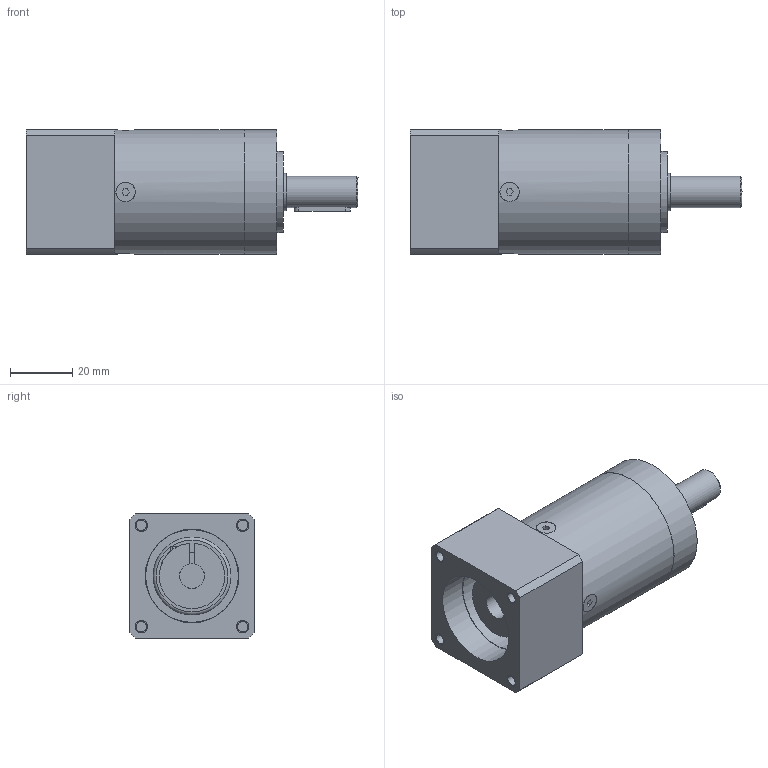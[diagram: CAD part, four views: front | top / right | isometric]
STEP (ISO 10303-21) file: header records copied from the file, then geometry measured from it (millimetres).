
FILE_DESCRIPTION(/* description */ (''),/* implementation_level */ '2;1');
FILE_NAME(/* name */ 'ag2250-ple40-m02-i-1b1-i1.stp',/* time_stamp */ '2026-03-26T09:50:02+01:00',/* author */ ('MatthiasPr'),/* organization */ (''),/* preprocessor_version */ 'ST-DEVELOPER v20',/* originating_system */ 'Autodesk Inventor 2024',/* authorisation */ '');
FILE_SCHEMA (('AUTOMOTIVE_DESIGN { 1 0 10303 214 3 1 1 }'));
Length unit declared in the file: millimetre
Products named in the file (1): MB_PLE_MASTER
Bounding box: 106.5 x 40 x 40 mm (x, y, z)
Volume: 100850.2 mm3; surface area: 20940.1 mm2
Topology: 1 solids, 10 shells, 128 faces, 273 edges, 177 vertices
Faces by surface type: plane 74, cylinder 48, cone 3, torus 3
Full cylindrical faces by diameter (mm): 2.3 x1, 2.4 x1, 3 x1, 3.2 x1, 3.3 x4, 3.4 x4, 4 x8, 5.5 x1, 7.5 x1, 8 x1, 10 x1, 12 x1, 15 x1, 25 x1, 26 x1, 29.7 x1, 30 x1, 39.9 x1, 40 x1
Entity records: 3799 total; most frequent: CARTESIAN_POINT 807, DIRECTION 615, ORIENTED_EDGE 526, EDGE_CURVE 272, AXIS2_PLACEMENT_3D 227, VERTEX_POINT 177, LINE 161, VECTOR 161
